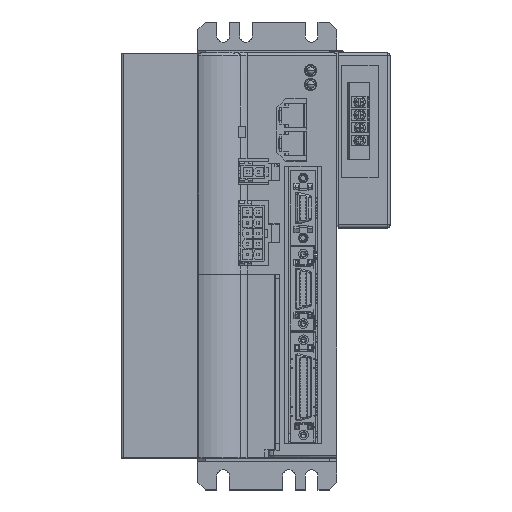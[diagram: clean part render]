
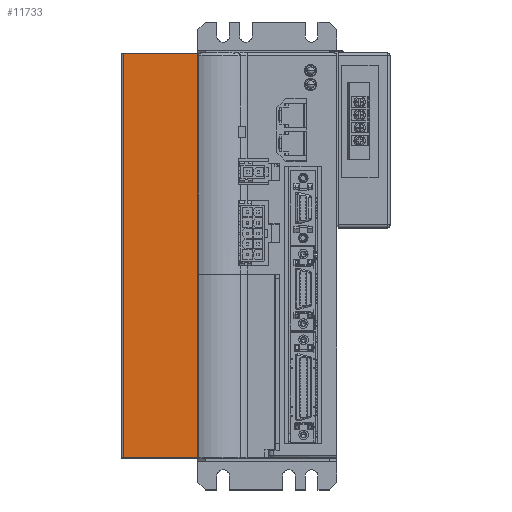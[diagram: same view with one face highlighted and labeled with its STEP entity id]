
A CAD part, top view. The second image highlights one B-rep face of the part: STEP entity #11733.
In plain terms, the highlighted planar face has unit normal (0, 0, 1).
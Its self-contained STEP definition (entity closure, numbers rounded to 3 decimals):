
#11733=ADVANCED_FACE('',(#44728),#44727,.T.);
#44727=PLANE('',#75804);
#44728=FACE_OUTER_BOUND('',#75805,.T.);
#75801=CARTESIAN_POINT('',(-39.55,-169.5,-14.9));
#75802=DIRECTION('',(0.,0.,1.));
#75803=DIRECTION('',(1.,0.,0.));
#75804=AXIS2_PLACEMENT_3D('',#75801,#75802,#75803);
#75805=EDGE_LOOP('',(#101034,#101035,#101036,#101037));
#101034=ORIENTED_EDGE('',*,*,#117482,.F.);
#101035=ORIENTED_EDGE('',*,*,#117596,.F.);
#101036=ORIENTED_EDGE('',*,*,#117483,.T.);
#101037=ORIENTED_EDGE('',*,*,#117358,.T.);
#117358=EDGE_CURVE('',#178084,#178076,#178085,.T.);
#117482=EDGE_CURVE('',#178943,#178076,#178950,.T.);
#117483=EDGE_CURVE('',#178956,#178084,#178957,.T.);
#117596=EDGE_CURVE('',#178956,#178943,#179744,.T.);
#178076=VERTEX_POINT('',#241727);
#178084=VERTEX_POINT('',#241732);
#178085=LINE('',#241733,#241734);
#178943=VERTEX_POINT('',#242285);
#178950=LINE('',#242290,#242291);
#178956=VERTEX_POINT('',#242293);
#178957=LINE('',#242294,#242295);
#179744=LINE('',#242797,#242798);
#241727=CARTESIAN_POINT('',(-7.1,0.5,-14.9));
#241732=CARTESIAN_POINT('',(-7.1,-159.5,-14.9));
#241733=CARTESIAN_POINT('',(-7.1,-159.5,-14.9));
#241734=VECTOR('',#241735,160.);
#241735=DIRECTION('',(0.,1.,0.));
#242285=CARTESIAN_POINT('',(-36.6,0.5,-14.9));
#242290=CARTESIAN_POINT('',(-36.6,0.5,-14.9));
#242291=VECTOR('',#242292,29.5);
#242292=DIRECTION('',(1.,0.,0.));
#242293=CARTESIAN_POINT('',(-36.6,-159.5,-14.9));
#242294=CARTESIAN_POINT('',(-36.6,-159.5,-14.9));
#242295=VECTOR('',#242296,29.5);
#242296=DIRECTION('',(1.,0.,0.));
#242797=CARTESIAN_POINT('',(-36.6,-159.5,-14.9));
#242798=VECTOR('',#242799,160.);
#242799=DIRECTION('',(0.,1.,0.));
